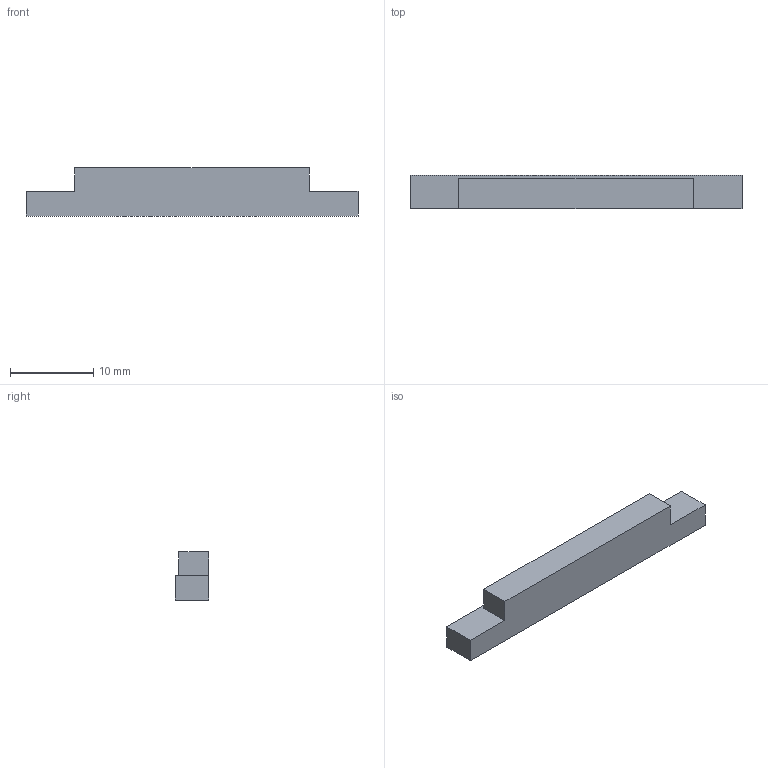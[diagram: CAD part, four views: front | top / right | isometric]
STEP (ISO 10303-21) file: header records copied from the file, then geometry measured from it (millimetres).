
FILE_DESCRIPTION(('Open CASCADE Model'),'2;1');
FILE_NAME('Open CASCADE Shape Model','2026-11-08T19:31:44',('Author'),( 'Open CASCADE'),'Open CASCADE STEP processor 7.8','Open CASCADE 7.8' ,'Unknown');
FILE_SCHEMA(('AUTOMOTIVE_DESIGN { 1 0 10303 214 1 1 1 1 }'));
Length unit declared in the file: millimetre
Products named in the file (1): Open CASCADE STEP translator 7.8 7
Bounding box: 40 x 4 x 5.8 mm (x, y, z)
Volume: 764.3 mm3; surface area: 762.1 mm2
Topology: 1 solids, 1 shells, 10 faces, 24 edges, 16 vertices
Faces by surface type: plane 10
Entity records: 610 total; most frequent: CARTESIAN_POINT 99, DIRECTION 94, LINE 72, VECTOR 72, ORIENTED_EDGE 48, PCURVE 48, DEFINITIONAL_REPRESENTATION 48, EDGE_CURVE 24
